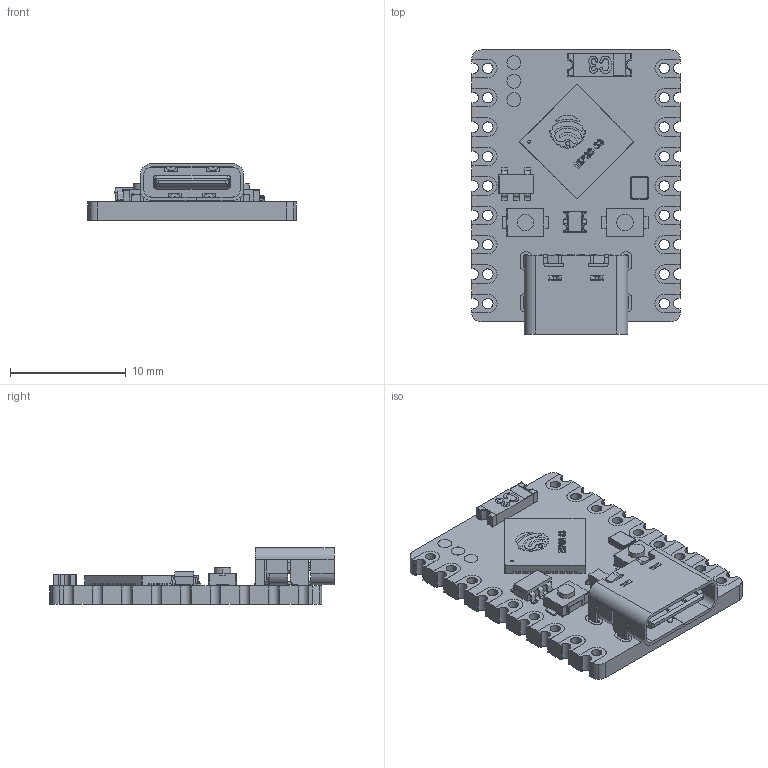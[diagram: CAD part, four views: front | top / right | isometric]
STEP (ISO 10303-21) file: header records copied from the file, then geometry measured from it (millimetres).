
FILE_DESCRIPTION (( 'STEP AP214' ), '1' );
FILE_NAME ('ESP32-S3_Zero.STEP', '2026-07-10T06:37:22', ( '' ), ( '' ), 'SwSTEP 2.0', 'SolidWorks 2026', '' );
FILE_SCHEMA (( 'AUTOMOTIVE_DESIGN' ));
Length unit declared in the file: millimetre
Products named in the file (1): ESP32-S3_Zero
Bounding box: 18 x 24.55 x 4.92 mm (x, y, z)
Volume: 824.6 mm3; surface area: 1860.4 mm2
Topology: 31 solids, 71 shells, 2088 faces, 5670 edges, 3755 vertices
Faces by surface type: plane 1488, cylinder 411, bspline 171, torus 16, cone 2
Entity records: 85045 total; most frequent: CARTESIAN_POINT 19357, ORIENTED_EDGE 11340, DIRECTION 9956, EDGE_CURVE 5670, LINE 4432, VECTOR 4432, VERTEX_POINT 3755, AXIS2_PLACEMENT_3D 2762
